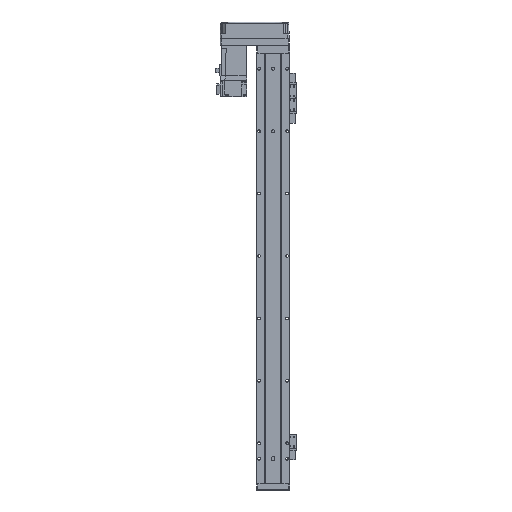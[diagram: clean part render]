
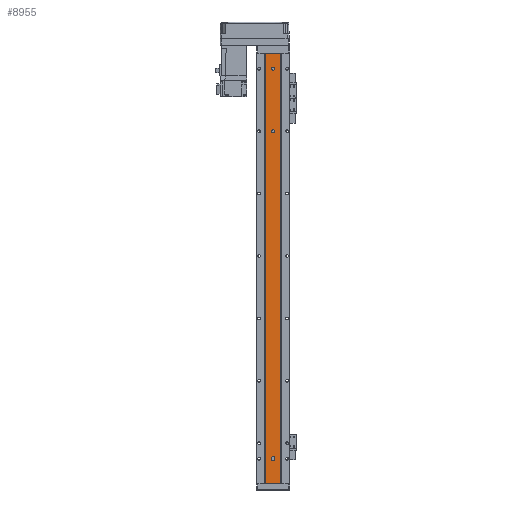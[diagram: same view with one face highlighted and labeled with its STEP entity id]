
A CAD part, front view. The second image highlights one B-rep face of the part: STEP entity #8955.
In plain terms, the highlighted planar face has unit normal (0, -1, 0).
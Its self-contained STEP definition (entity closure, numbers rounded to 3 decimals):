
#95 = EDGE_LOOP ( 'NONE', ( #28706, #36199 ) ) ;
#195 = CARTESIAN_POINT ( 'NONE',  ( 0., 1.5, -25. ) ) ;
#250 = ORIENTED_EDGE ( 'NONE', *, *, #6137, .T. ) ;
#298 = ORIENTED_EDGE ( 'NONE', *, *, #16300, .F. ) ;
#608 = CIRCLE ( 'NONE', #32074, 2.5 ) ;
#1057 = FACE_OUTER_BOUND ( 'NONE', #11577, .T. ) ;
#1751 = ORIENTED_EDGE ( 'NONE', *, *, #11025, .F. ) ;
#1884 = VERTEX_POINT ( 'NONE', #4807 ) ;
#1928 = LINE ( 'NONE', #15176, #2431 ) ;
#2090 = EDGE_CURVE ( 'NONE', #2515, #1884, #608, .T. ) ;
#2406 = VERTEX_POINT ( 'NONE', #22884 ) ;
#2431 = VECTOR ( 'NONE', #26808, 1000. ) ;
#2515 = VERTEX_POINT ( 'NONE', #29366 ) ;
#2874 = AXIS2_PLACEMENT_3D ( 'NONE', #38653, #17176, #29630 ) ;
#3192 = CARTESIAN_POINT ( 'NONE',  ( 0., 1.5, -649. ) ) ;
#3785 = ORIENTED_EDGE ( 'NONE', *, *, #22558, .F. ) ;
#4807 = CARTESIAN_POINT ( 'NONE',  ( 2.5, 1.5, -651. ) ) ;
#5968 = DIRECTION ( 'NONE',  ( 0., 0., 1. ) ) ;
#5981 = DIRECTION ( 'NONE',  ( 1., 0., 0. ) ) ;
#6058 = CIRCLE ( 'NONE', #22435, 2.5 ) ;
#6102 = DIRECTION ( 'NONE',  ( 1., 0., 0. ) ) ;
#6137 = EDGE_CURVE ( 'NONE', #31899, #36556, #13297, .T. ) ;
#6846 = VERTEX_POINT ( 'NONE', #15766 ) ;
#6955 = CIRCLE ( 'NONE', #33788, 2.5 ) ;
#7122 = ORIENTED_EDGE ( 'NONE', *, *, #10369, .F. ) ;
#7512 = CIRCLE ( 'NONE', #2874, 2.5 ) ;
#8057 = CARTESIAN_POINT ( 'NONE',  ( 12.293, 1.5, 0. ) ) ;
#8184 = CARTESIAN_POINT ( 'NONE',  ( -12.293, 1.5, -690. ) ) ;
#8367 = CARTESIAN_POINT ( 'NONE',  ( 12.293, 1.5, -690. ) ) ;
#8518 = AXIS2_PLACEMENT_3D ( 'NONE', #10208, #37321, #12987 ) ;
#8955 = ADVANCED_FACE ( 'NONE', ( #26613, #12880, #36093, #1057 ), #28194, .T. ) ;
#9620 = CARTESIAN_POINT ( 'NONE',  ( 12.293, 1.5, -690. ) ) ;
#10107 = CIRCLE ( 'NONE', #38185, 2.5 ) ;
#10208 = CARTESIAN_POINT ( 'NONE',  ( 12.293, 1.5, -690. ) ) ;
#10369 = EDGE_CURVE ( 'NONE', #1884, #27207, #30197, .T. ) ;
#10449 = ORIENTED_EDGE ( 'NONE', *, *, #23064, .F. ) ;
#10942 = EDGE_CURVE ( 'NONE', #33554, #31899, #34609, .T. ) ;
#11025 = EDGE_CURVE ( 'NONE', #33554, #27406, #11858, .T. ) ;
#11566 = DIRECTION ( 'NONE',  ( 0., 0., 1. ) ) ;
#11577 = EDGE_LOOP ( 'NONE', ( #298, #1751, #16822, #250 ) ) ;
#11740 = VECTOR ( 'NONE', #11566, 1000. ) ;
#11858 = LINE ( 'NONE', #27385, #37422 ) ;
#12644 = DIRECTION ( 'NONE',  ( 0., 0., 1. ) ) ;
#12880 = FACE_BOUND ( 'NONE', #38857, .T. ) ;
#12987 = DIRECTION ( 'NONE',  ( 1., 0., 0. ) ) ;
#13297 = LINE ( 'NONE', #9620, #20861 ) ;
#13767 = VECTOR ( 'NONE', #14847, 1000. ) ;
#14813 = CARTESIAN_POINT ( 'NONE',  ( 2.5, 1.5, -25. ) ) ;
#14820 = VERTEX_POINT ( 'NONE', #15627 ) ;
#14847 = DIRECTION ( 'NONE',  ( 1., 0., 0. ) ) ;
#14948 = DIRECTION ( 'NONE',  ( 0., -1., 0. ) ) ;
#15176 = CARTESIAN_POINT ( 'NONE',  ( 12.293, 1.5, 0. ) ) ;
#15222 = VERTEX_POINT ( 'NONE', #14813 ) ;
#15286 = EDGE_CURVE ( 'NONE', #14820, #15222, #22437, .T. ) ;
#15627 = CARTESIAN_POINT ( 'NONE',  ( -2.5, 1.5, -25. ) ) ;
#15766 = CARTESIAN_POINT ( 'NONE',  ( -2.5, 1.5, -649. ) ) ;
#16300 = EDGE_CURVE ( 'NONE', #27406, #36556, #1928, .T. ) ;
#16822 = ORIENTED_EDGE ( 'NONE', *, *, #10942, .T. ) ;
#17176 = DIRECTION ( 'NONE',  ( 0., -1., 0. ) ) ;
#17355 = CARTESIAN_POINT ( 'NONE',  ( -2.5, 1.5, -690. ) ) ;
#17515 = EDGE_LOOP ( 'NONE', ( #35189, #10449, #30411, #7122 ) ) ;
#17562 = CARTESIAN_POINT ( 'NONE',  ( -12.293, 1.5, 0. ) ) ;
#17733 = DIRECTION ( 'NONE',  ( 0., 0., -1. ) ) ;
#19274 = ORIENTED_EDGE ( 'NONE', *, *, #21929, .F. ) ;
#20163 = VECTOR ( 'NONE', #17733, 1000. ) ;
#20555 = CARTESIAN_POINT ( 'NONE',  ( 2.5, 1.5, -690. ) ) ;
#20861 = VECTOR ( 'NONE', #12644, 1000. ) ;
#20930 = CARTESIAN_POINT ( 'NONE',  ( 0., 1.5, -651. ) ) ;
#21557 = DIRECTION ( 'NONE',  ( 0., -1., 0. ) ) ;
#21929 = EDGE_CURVE ( 'NONE', #2406, #26255, #7512, .T. ) ;
#22435 = AXIS2_PLACEMENT_3D ( 'NONE', #32923, #36342, #27320 ) ;
#22437 = CIRCLE ( 'NONE', #28221, 2.5 ) ;
#22558 = EDGE_CURVE ( 'NONE', #26255, #2406, #6058, .T. ) ;
#22884 = CARTESIAN_POINT ( 'NONE',  ( -2.5, 1.5, -125. ) ) ;
#23064 = EDGE_CURVE ( 'NONE', #6846, #2515, #36301, .T. ) ;
#24859 = CARTESIAN_POINT ( 'NONE',  ( 12.293, 1.5, -690. ) ) ;
#26255 = VERTEX_POINT ( 'NONE', #29557 ) ;
#26613 = FACE_BOUND ( 'NONE', #17515, .T. ) ;
#26808 = DIRECTION ( 'NONE',  ( 1., 0., 0. ) ) ;
#26892 = EDGE_CURVE ( 'NONE', #15222, #14820, #6955, .T. ) ;
#27207 = VERTEX_POINT ( 'NONE', #37580 ) ;
#27320 = DIRECTION ( 'NONE',  ( 1., 0., 0. ) ) ;
#27385 = CARTESIAN_POINT ( 'NONE',  ( -12.293, 1.5, -690. ) ) ;
#27406 = VERTEX_POINT ( 'NONE', #17562 ) ;
#28194 = PLANE ( 'NONE',  #8518 ) ;
#28221 = AXIS2_PLACEMENT_3D ( 'NONE', #33080, #14948, #36116 ) ;
#28706 = ORIENTED_EDGE ( 'NONE', *, *, #26892, .F. ) ;
#29366 = CARTESIAN_POINT ( 'NONE',  ( -2.5, 1.5, -651. ) ) ;
#29557 = CARTESIAN_POINT ( 'NONE',  ( 2.5, 1.5, -125. ) ) ;
#29630 = DIRECTION ( 'NONE',  ( 1., 0., 0. ) ) ;
#30197 = LINE ( 'NONE', #20555, #11740 ) ;
#30411 = ORIENTED_EDGE ( 'NONE', *, *, #37049, .F. ) ;
#31899 = VERTEX_POINT ( 'NONE', #24859 ) ;
#32074 = AXIS2_PLACEMENT_3D ( 'NONE', #20930, #36571, #36437 ) ;
#32865 = DIRECTION ( 'NONE',  ( 0., -1., 0. ) ) ;
#32923 = CARTESIAN_POINT ( 'NONE',  ( 0., 1.5, -125. ) ) ;
#33080 = CARTESIAN_POINT ( 'NONE',  ( 0., 1.5, -25. ) ) ;
#33554 = VERTEX_POINT ( 'NONE', #8184 ) ;
#33788 = AXIS2_PLACEMENT_3D ( 'NONE', #195, #21557, #5981 ) ;
#34609 = LINE ( 'NONE', #8367, #13767 ) ;
#35189 = ORIENTED_EDGE ( 'NONE', *, *, #2090, .F. ) ;
#36093 = FACE_BOUND ( 'NONE', #95, .T. ) ;
#36116 = DIRECTION ( 'NONE',  ( 1., 0., 0. ) ) ;
#36199 = ORIENTED_EDGE ( 'NONE', *, *, #15286, .F. ) ;
#36301 = LINE ( 'NONE', #17355, #20163 ) ;
#36342 = DIRECTION ( 'NONE',  ( 0., -1., 0. ) ) ;
#36437 = DIRECTION ( 'NONE',  ( 1., 0., 0. ) ) ;
#36556 = VERTEX_POINT ( 'NONE', #8057 ) ;
#36571 = DIRECTION ( 'NONE',  ( 0., -1., 0. ) ) ;
#37049 = EDGE_CURVE ( 'NONE', #27207, #6846, #10107, .T. ) ;
#37321 = DIRECTION ( 'NONE',  ( 0., -1., 0. ) ) ;
#37422 = VECTOR ( 'NONE', #5968, 1000. ) ;
#37580 = CARTESIAN_POINT ( 'NONE',  ( 2.5, 1.5, -649. ) ) ;
#38185 = AXIS2_PLACEMENT_3D ( 'NONE', #3192, #32865, #6102 ) ;
#38653 = CARTESIAN_POINT ( 'NONE',  ( 0., 1.5, -125. ) ) ;
#38857 = EDGE_LOOP ( 'NONE', ( #3785, #19274 ) ) ;
